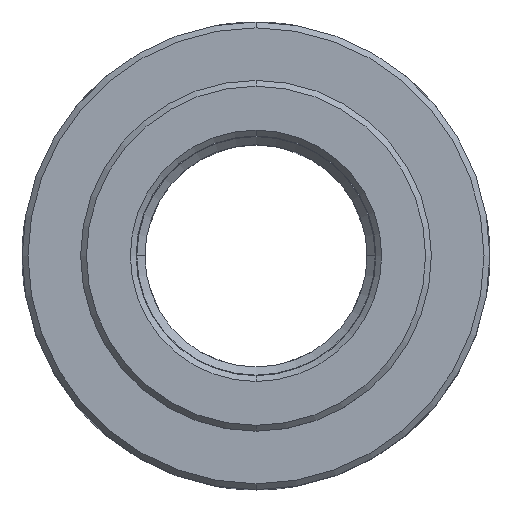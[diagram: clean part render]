
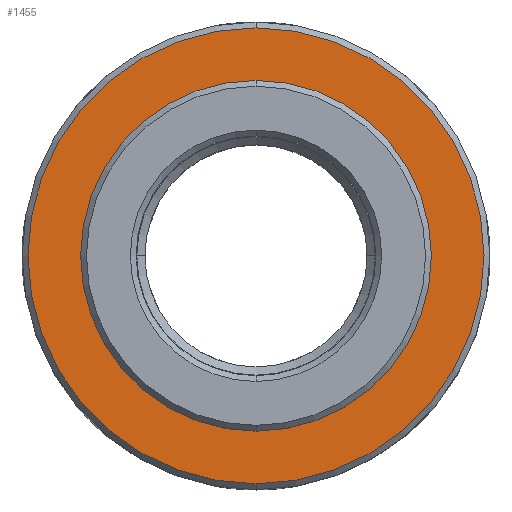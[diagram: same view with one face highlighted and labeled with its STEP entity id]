
A CAD part, top view. The second image highlights one B-rep face of the part: STEP entity #1455.
In plain terms, the highlighted planar face has unit normal (0, 0, 1).
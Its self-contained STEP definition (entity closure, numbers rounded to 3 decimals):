
#434 = CARTESIAN_POINT ( 'NONE',  ( 0., 20., 7. ) ) ;
#444 = AXIS2_PLACEMENT_3D ( 'NONE', #468, #467, #466 ) ;
#463 = DIRECTION ( 'NONE',  ( 0., 1., 0. ) ) ;
#464 = DIRECTION ( 'NONE',  ( 0., 0., 1. ) ) ;
#465 = CARTESIAN_POINT ( 'NONE',  ( 0., 0., 7. ) ) ;
#466 = DIRECTION ( 'NONE',  ( 0., -1., 0. ) ) ;
#467 = DIRECTION ( 'NONE',  ( 0., 0., 1. ) ) ;
#468 = CARTESIAN_POINT ( 'NONE',  ( 0., 0., 7. ) ) ;
#469 = DIRECTION ( 'NONE',  ( 0., 1., 0. ) ) ;
#470 = DIRECTION ( 'NONE',  ( 0., 0., -1. ) ) ;
#472 = CIRCLE ( 'NONE', #474, 19.5 ) ;
#473 = CIRCLE ( 'NONE', #444, 15. ) ;
#474 = AXIS2_PLACEMENT_3D ( 'NONE', #465, #464, #463 ) ;
#475 = FACE_OUTER_BOUND ( 'NONE', #1466, .T. ) ;
#480 = PLANE ( 'NONE',  #485 ) ;
#485 = AXIS2_PLACEMENT_3D ( 'NONE', #434, #470, #469 ) ;
#486 = FACE_BOUND ( 'NONE', #1471, .T. ) ;
#1024 = VERTEX_POINT ( 'NONE', #1759 ) ;
#1055 = VERTEX_POINT ( 'NONE', #1844 ) ;
#1058 = EDGE_CURVE ( 'NONE', #1055, #1024, #1830, .T. ) ;
#1159 = EDGE_CURVE ( 'NONE', #1164, #1162, #2036, .T. ) ;
#1162 = VERTEX_POINT ( 'NONE', #1987 ) ;
#1164 = VERTEX_POINT ( 'NONE', #2003 ) ;
#1429 = ORIENTED_EDGE ( 'NONE', *, *, #1458, .T. ) ;
#1455 = ADVANCED_FACE ( 'NONE', ( #475, #486 ), #480, .F. ) ;
#1456 = ORIENTED_EDGE ( 'NONE', *, *, #1159, .F. ) ;
#1458 = EDGE_CURVE ( 'NONE', #1024, #1055, #472, .T. ) ;
#1459 = EDGE_CURVE ( 'NONE', #1162, #1164, #473, .T. ) ;
#1462 = ORIENTED_EDGE ( 'NONE', *, *, #1459, .F. ) ;
#1466 = EDGE_LOOP ( 'NONE', ( #1429, #1475 ) ) ;
#1471 = EDGE_LOOP ( 'NONE', ( #1456, #1462 ) ) ;
#1475 = ORIENTED_EDGE ( 'NONE', *, *, #1058, .T. ) ;
#1759 = CARTESIAN_POINT ( 'NONE',  ( 0., 19.5, 7. ) ) ;
#1827 = DIRECTION ( 'NONE',  ( 0., 1., 0. ) ) ;
#1828 = DIRECTION ( 'NONE',  ( 0., 0., 1. ) ) ;
#1829 = CARTESIAN_POINT ( 'NONE',  ( 0., 0., 7. ) ) ;
#1830 = CIRCLE ( 'NONE', #1834, 19.5 ) ;
#1834 = AXIS2_PLACEMENT_3D ( 'NONE', #1829, #1828, #1827 ) ;
#1844 = CARTESIAN_POINT ( 'NONE',  ( 0., -19.5, 7. ) ) ;
#1987 = CARTESIAN_POINT ( 'NONE',  ( 0., 15., 7. ) ) ;
#2003 = CARTESIAN_POINT ( 'NONE',  ( 0., -15., 7. ) ) ;
#2032 = DIRECTION ( 'NONE',  ( 0., -1., 0. ) ) ;
#2033 = DIRECTION ( 'NONE',  ( 0., 0., 1. ) ) ;
#2034 = CARTESIAN_POINT ( 'NONE',  ( 0., 0., 7. ) ) ;
#2035 = AXIS2_PLACEMENT_3D ( 'NONE', #2034, #2033, #2032 ) ;
#2036 = CIRCLE ( 'NONE', #2035, 15. ) ;
